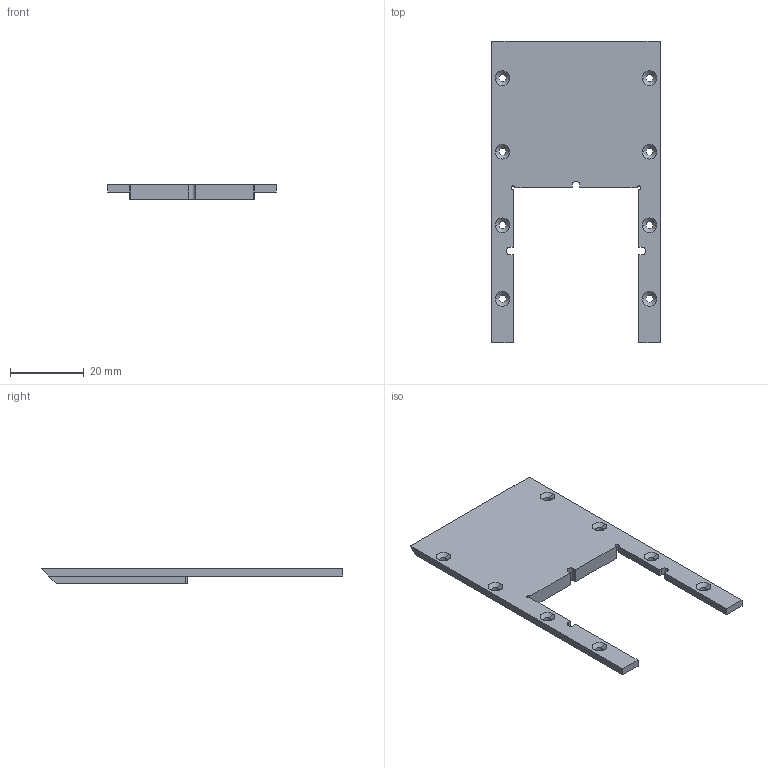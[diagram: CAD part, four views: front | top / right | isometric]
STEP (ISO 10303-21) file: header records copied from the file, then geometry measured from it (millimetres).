
FILE_DESCRIPTION (( 'STEP AP214' ), '1' );
FILE_NAME ('SC42.STEP', '2016-02-27T08:04:54', ( '' ), ( '' ), 'SwSTEP 2.0', 'SolidWorks 2012', '' );
FILE_SCHEMA (( 'AUTOMOTIVE_DESIGN' ));
Length unit declared in the file: millimetre
Products named in the file (1): SC42
Bounding box: 45.8 x 81.9 x 4 mm (x, y, z)
Volume: 6934.8 mm3; surface area: 5524.2 mm2
Topology: 1 solids, 1 shells, 64 faces, 168 edges, 106 vertices
Faces by surface type: plane 25, cylinder 23, cone 16
Entity records: 2038 total; most frequent: DIRECTION 362, CARTESIAN_POINT 339, ORIENTED_EDGE 336, EDGE_CURVE 168, AXIS2_PLACEMENT_3D 129, VERTEX_POINT 106, VECTOR 104, LINE 104
